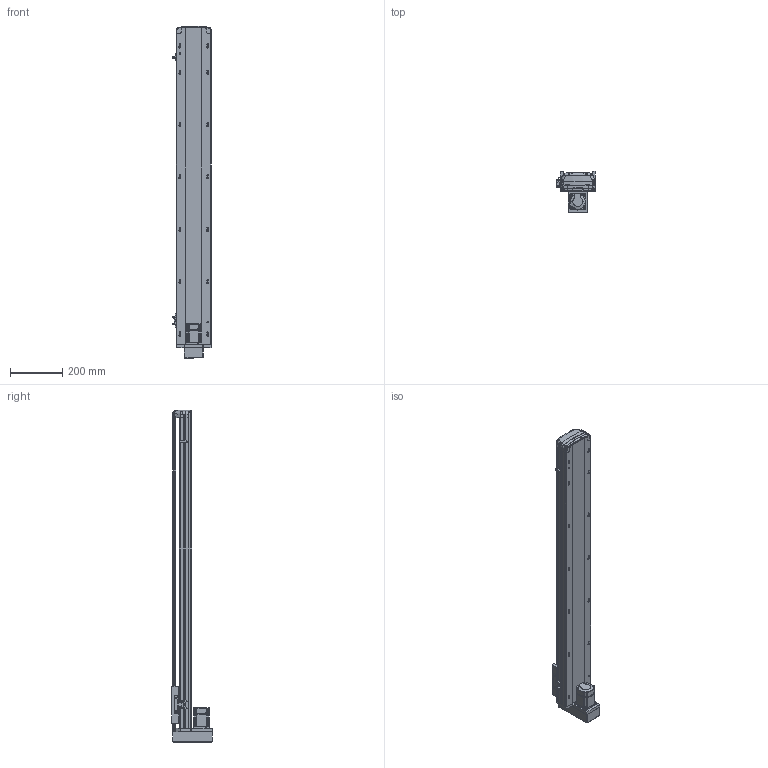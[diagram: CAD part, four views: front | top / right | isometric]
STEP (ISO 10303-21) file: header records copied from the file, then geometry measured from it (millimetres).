
FILE_DESCRIPTION (( 'STEP AP214' ), '1' );
FILE_NAME ('RTH14-XX-1000-M-M20-C4.STEP', '2025-10-25T02:52:36', ( 'Microsoft' ), ( 'Microsoft' ), 'SwSTEP 2.0', 'SolidWorks 2018', '' );
FILE_SCHEMA (( 'AUTOMOTIVE_DESIGN' ));
Length unit declared in the file: millimetre
Products named in the file (10): N_OMRON EE-SX672 传感器^RTH14-XX-XX-M-M20-C4; N_RTH14-R-004-SFSR16賑釱^RTH14-XX-XX-M-M20-C4; N_RTH13-L-012感应片（外置）^RTH14-XX-XX-M-M20-C4; N_RTH13-M-008萇儂啣狟殏^RTH14-XX-XX-M-M20-C4; N_RTH13-M-018裔赽^RTH14-XX-XX-M-M20-C4; N_MSMD022P1AA_200W^RTH14-XX-XX-M-M20-C4; N_RTH14-M-007P奻裔^RTH14-XX-XX-M-M20-C4; N_RTH14-M-011P菁釱^RTH14-XX-XX-M-M20-C4; RTH14-XX-1000-M-M20-C4; N_RTH14-GY-001P^RTH14-XX-XX-M-M20-C4
Assembly tree (11 placements, depth 2):
  RTH14-XX-1000-M-M20-C4
    N_RTH14-M-011P菁釱^RTH14-XX-XX-M-M20-C4
    N_RTH14-M-007P奻裔^RTH14-XX-XX-M-M20-C4
    N_MSMD022P1AA_200W^RTH14-XX-XX-M-M20-C4
    N_RTH13-M-008萇儂啣狟殏^RTH14-XX-XX-M-M20-C4
    N_RTH13-M-018裔赽^RTH14-XX-XX-M-M20-C4
    N_RTH13-L-012感应片（外置）^RTH14-XX-XX-M-M20-C4
    N_OMRON EE-SX672 传感器^RTH14-XX-XX-M-M20-C4  x3
    N_RTH14-R-004-SFSR16賑釱^RTH14-XX-XX-M-M20-C4
    N_RTH14-GY-001P^RTH14-XX-XX-M-M20-C4
Bounding box: 148.5 x 156.5 x 1267.49 mm (x, y, z)
Volume: 5421853 mm3; surface area: 1238682.9 mm2
Topology: 11 solids, 11 shells, 1903 faces, 5324 edges, 3488 vertices
Faces by surface type: plane 999, cylinder 510, bspline 345, cone 45, torus 4
Entity records: 58314 total; most frequent: CARTESIAN_POINT 23307, ORIENTED_EDGE 7716, DIRECTION 6243, EDGE_CURVE 3858, VERTEX_POINT 2524, VECTOR 2201, LINE 2201, AXIS2_PLACEMENT_3D 2021
